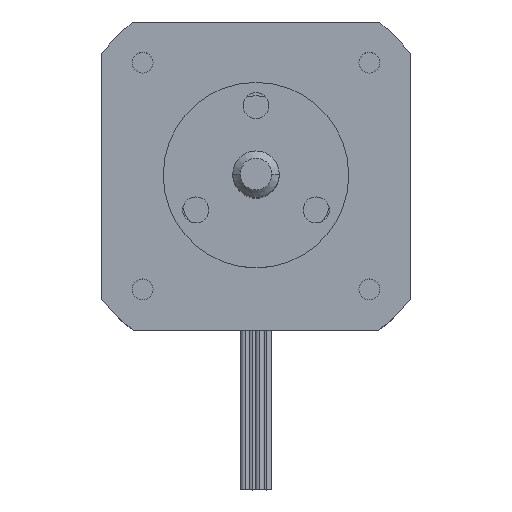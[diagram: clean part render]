
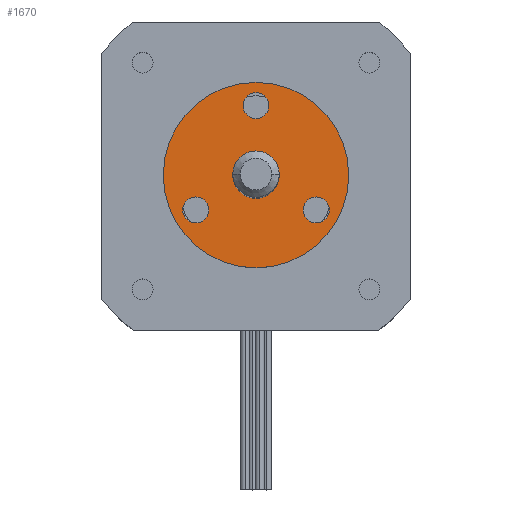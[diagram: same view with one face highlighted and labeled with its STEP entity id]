
A CAD part, top view. The second image highlights one B-rep face of the part: STEP entity #1670.
In plain terms, the highlighted planar face has unit normal (0, 0, 1).
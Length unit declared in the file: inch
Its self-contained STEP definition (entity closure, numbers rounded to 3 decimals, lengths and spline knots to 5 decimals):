
#1 = DIRECTION ( 'NONE',  ( 0., 0., 1. ) ) ;
#10 = ORIENTED_EDGE ( 'NONE', *, *, #589, .F. ) ;
#20 = DIRECTION ( 'NONE',  ( 1., 0., 0. ) ) ;
#25 = VERTEX_POINT ( 'NONE', #2929 ) ;
#107 = AXIS2_PLACEMENT_3D ( 'NONE', #805, #1269, #1498 ) ;
#135 = EDGE_CURVE ( 'NONE', #1167, #2656, #3041, .T. ) ;
#152 = CIRCLE ( 'NONE', #2596, 0.5 ) ;
#156 = CARTESIAN_POINT ( 'NONE',  ( 0.25468, 0.1875, 0. ) ) ;
#162 = DIRECTION ( 'NONE',  ( 1., 0., 0. ) ) ;
#248 = EDGE_CURVE ( 'NONE', #1016, #2918, #3147, .T. ) ;
#276 = DIRECTION ( 'NONE',  ( 0., 0., 1. ) ) ;
#277 = DIRECTION ( 'NONE',  ( 1., 0., 0. ) ) ;
#413 = EDGE_LOOP ( 'NONE', ( #826, #1918 ) ) ;
#460 = ORIENTED_EDGE ( 'NONE', *, *, #248, .F. ) ;
#495 = FACE_BOUND ( 'NONE', #2385, .T. ) ;
#520 = CARTESIAN_POINT ( 'NONE',  ( 0., 0., 0. ) ) ;
#536 = DIRECTION ( 'NONE',  ( 1., 0., 0. ) ) ;
#557 = EDGE_CURVE ( 'NONE', #25, #993, #1957, .T. ) ;
#570 = CARTESIAN_POINT ( 'NONE',  ( -0.32476, 0.1875, 0. ) ) ;
#589 = EDGE_CURVE ( 'NONE', #993, #25, #2531, .T. ) ;
#613 = AXIS2_PLACEMENT_3D ( 'NONE', #1852, #662, #1907 ) ;
#633 = CARTESIAN_POINT ( 'NONE',  ( -0.125, 0., 0. ) ) ;
#637 = DIRECTION ( 'NONE',  ( 0., 0., 1. ) ) ;
#662 = DIRECTION ( 'NONE',  ( 0., 0., 1. ) ) ;
#674 = AXIS2_PLACEMENT_3D ( 'NONE', #2727, #2245, #1022 ) ;
#724 = EDGE_CURVE ( 'NONE', #2918, #1016, #2923, .T. ) ;
#747 = EDGE_LOOP ( 'NONE', ( #1602, #1458 ) ) ;
#751 = CARTESIAN_POINT ( 'NONE',  ( 0., 0., 0. ) ) ;
#754 = EDGE_CURVE ( 'NONE', #1626, #2699, #152, .T. ) ;
#805 = CARTESIAN_POINT ( 'NONE',  ( 0., 0., 0. ) ) ;
#812 = AXIS2_PLACEMENT_3D ( 'NONE', #1821, #2051, #2806 ) ;
#826 = ORIENTED_EDGE ( 'NONE', *, *, #754, .T. ) ;
#856 = CARTESIAN_POINT ( 'NONE',  ( 0., -0.375, 0. ) ) ;
#870 = EDGE_LOOP ( 'NONE', ( #2539, #10 ) ) ;
#885 = EDGE_CURVE ( 'NONE', #1754, #1685, #2762, .T. ) ;
#993 = VERTEX_POINT ( 'NONE', #1097 ) ;
#1016 = VERTEX_POINT ( 'NONE', #3087 ) ;
#1022 = DIRECTION ( 'NONE',  ( 1., 0., 0. ) ) ;
#1040 = CARTESIAN_POINT ( 'NONE',  ( 0.5, 0., 0. ) ) ;
#1097 = CARTESIAN_POINT ( 'NONE',  ( -0.39484, 0.1875, 0. ) ) ;
#1167 = VERTEX_POINT ( 'NONE', #2085 ) ;
#1262 = EDGE_LOOP ( 'NONE', ( #460, #2639 ) ) ;
#1269 = DIRECTION ( 'NONE',  ( 0., 0., -1. ) ) ;
#1288 = CARTESIAN_POINT ( 'NONE',  ( 0.07008, -0.375, 0. ) ) ;
#1369 = DIRECTION ( 'NONE',  ( 1., 0., 0. ) ) ;
#1458 = ORIENTED_EDGE ( 'NONE', *, *, #885, .F. ) ;
#1498 = DIRECTION ( 'NONE',  ( -1., 0., 0. ) ) ;
#1507 = CARTESIAN_POINT ( 'NONE',  ( -0.32476, 0.1875, 0. ) ) ;
#1541 = FACE_OUTER_BOUND ( 'NONE', #413, .T. ) ;
#1548 = AXIS2_PLACEMENT_3D ( 'NONE', #570, #3053, #536 ) ;
#1575 = ORIENTED_EDGE ( 'NONE', *, *, #3036, .F. ) ;
#1580 = AXIS2_PLACEMENT_3D ( 'NONE', #2145, #637, #162 ) ;
#1598 = AXIS2_PLACEMENT_3D ( 'NONE', #751, #1747, #277 ) ;
#1602 = ORIENTED_EDGE ( 'NONE', *, *, #1859, .F. ) ;
#1626 = VERTEX_POINT ( 'NONE', #1040 ) ;
#1670 = ADVANCED_FACE ( 'NONE', ( #2035, #2005, #1730, #495, #1541 ), #3229, .F. ) ;
#1684 = CARTESIAN_POINT ( 'NONE',  ( -0.5, 0., 0. ) ) ;
#1685 = VERTEX_POINT ( 'NONE', #1288 ) ;
#1730 = FACE_BOUND ( 'NONE', #747, .T. ) ;
#1747 = DIRECTION ( 'NONE',  ( 0., 0., 1. ) ) ;
#1754 = VERTEX_POINT ( 'NONE', #2555 ) ;
#1806 = AXIS2_PLACEMENT_3D ( 'NONE', #856, #2850, #1369 ) ;
#1821 = CARTESIAN_POINT ( 'NONE',  ( 0., 0., 0. ) ) ;
#1852 = CARTESIAN_POINT ( 'NONE',  ( 0.32476, 0.1875, 0. ) ) ;
#1859 = EDGE_CURVE ( 'NONE', #1685, #1754, #2842, .T. ) ;
#1886 = CARTESIAN_POINT ( 'NONE',  ( 0., 0., 0. ) ) ;
#1900 = CIRCLE ( 'NONE', #812, 0.5 ) ;
#1907 = DIRECTION ( 'NONE',  ( 1., 0., 0. ) ) ;
#1918 = ORIENTED_EDGE ( 'NONE', *, *, #2323, .T. ) ;
#1957 = CIRCLE ( 'NONE', #2148, 0.07008 ) ;
#2005 = FACE_BOUND ( 'NONE', #1262, .T. ) ;
#2035 = FACE_BOUND ( 'NONE', #870, .T. ) ;
#2051 = DIRECTION ( 'NONE',  ( 0., 0., 1. ) ) ;
#2085 = CARTESIAN_POINT ( 'NONE',  ( 0.125, 0., 0. ) ) ;
#2138 = ORIENTED_EDGE ( 'NONE', *, *, #135, .F. ) ;
#2145 = CARTESIAN_POINT ( 'NONE',  ( 0.32476, 0.1875, 0. ) ) ;
#2148 = AXIS2_PLACEMENT_3D ( 'NONE', #1507, #1, #20 ) ;
#2212 = CIRCLE ( 'NONE', #1598, 0.125 ) ;
#2245 = DIRECTION ( 'NONE',  ( 0., 0., 1. ) ) ;
#2323 = EDGE_CURVE ( 'NONE', #2699, #1626, #1900, .T. ) ;
#2385 = EDGE_LOOP ( 'NONE', ( #2138, #1575 ) ) ;
#2531 = CIRCLE ( 'NONE', #1548, 0.07008 ) ;
#2539 = ORIENTED_EDGE ( 'NONE', *, *, #557, .F. ) ;
#2555 = CARTESIAN_POINT ( 'NONE',  ( -0.07008, -0.375, 0. ) ) ;
#2595 = AXIS2_PLACEMENT_3D ( 'NONE', #520, #276, #3037 ) ;
#2596 = AXIS2_PLACEMENT_3D ( 'NONE', #1886, #2928, #2885 ) ;
#2639 = ORIENTED_EDGE ( 'NONE', *, *, #724, .F. ) ;
#2656 = VERTEX_POINT ( 'NONE', #633 ) ;
#2699 = VERTEX_POINT ( 'NONE', #1684 ) ;
#2727 = CARTESIAN_POINT ( 'NONE',  ( 0., -0.375, 0. ) ) ;
#2762 = CIRCLE ( 'NONE', #674, 0.07008 ) ;
#2806 = DIRECTION ( 'NONE',  ( 1., 0., 0. ) ) ;
#2842 = CIRCLE ( 'NONE', #1806, 0.07008 ) ;
#2850 = DIRECTION ( 'NONE',  ( 0., 0., 1. ) ) ;
#2885 = DIRECTION ( 'NONE',  ( 1., 0., 0. ) ) ;
#2918 = VERTEX_POINT ( 'NONE', #156 ) ;
#2923 = CIRCLE ( 'NONE', #613, 0.07008 ) ;
#2928 = DIRECTION ( 'NONE',  ( 0., 0., 1. ) ) ;
#2929 = CARTESIAN_POINT ( 'NONE',  ( -0.25468, 0.1875, 0. ) ) ;
#3036 = EDGE_CURVE ( 'NONE', #2656, #1167, #2212, .T. ) ;
#3037 = DIRECTION ( 'NONE',  ( 1., 0., 0. ) ) ;
#3041 = CIRCLE ( 'NONE', #2595, 0.125 ) ;
#3053 = DIRECTION ( 'NONE',  ( 0., 0., 1. ) ) ;
#3087 = CARTESIAN_POINT ( 'NONE',  ( 0.39484, 0.1875, 0. ) ) ;
#3147 = CIRCLE ( 'NONE', #1580, 0.07008 ) ;
#3229 = PLANE ( 'NONE',  #107 ) ;
